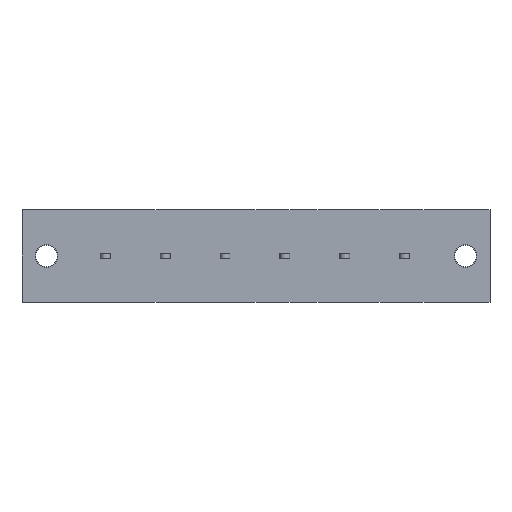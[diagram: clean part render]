
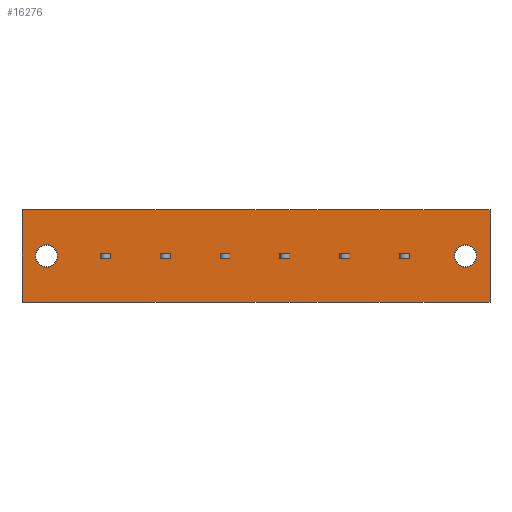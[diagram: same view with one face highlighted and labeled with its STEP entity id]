
A CAD part, front view. The second image highlights one B-rep face of the part: STEP entity #16276.
In plain terms, the highlighted planar face has unit normal (0, -1, 0).
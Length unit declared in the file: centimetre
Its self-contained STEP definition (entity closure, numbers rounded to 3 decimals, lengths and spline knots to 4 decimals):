
#977=VECTOR('',#17509,1.);
#1468=VECTOR('',#18308,1.);
#1637=VECTOR('',#18751,1.);
#1641=VECTOR('',#18756,1.);
#1652=VECTOR('',#18789,1.);
#1654=VECTOR('',#18792,1.);
#1772=VECTOR('',#19106,1.);
#1776=VECTOR('',#19111,1.);
#1787=VECTOR('',#19144,1.);
#1789=VECTOR('',#19147,1.);
#1907=VECTOR('',#19461,1.);
#1911=VECTOR('',#19466,1.);
#1922=VECTOR('',#19499,1.);
#1924=VECTOR('',#19502,1.);
#2042=VECTOR('',#19816,1.);
#2046=VECTOR('',#19821,1.);
#2057=VECTOR('',#19854,1.);
#2059=VECTOR('',#19857,1.);
#2177=VECTOR('',#20171,1.);
#2181=VECTOR('',#20176,1.);
#2192=VECTOR('',#20209,1.);
#2194=VECTOR('',#20212,1.);
#2261=VECTOR('',#20337,1.);
#2262=VECTOR('',#20338,1.);
#2263=VECTOR('',#20339,1.);
#2264=VECTOR('',#20340,1.);
#2265=VECTOR('',#20341,1.);
#2266=VECTOR('',#20342,1.);
#2724=LINE('',#21988,#977);
#3215=LINE('',#23827,#1468);
#3384=LINE('',#24382,#1637);
#3388=LINE('',#24391,#1641);
#3399=LINE('',#24426,#1652);
#3401=LINE('',#24430,#1654);
#3519=LINE('',#24831,#1772);
#3523=LINE('',#24840,#1776);
#3534=LINE('',#24875,#1787);
#3536=LINE('',#24879,#1789);
#3654=LINE('',#25280,#1907);
#3658=LINE('',#25289,#1911);
#3669=LINE('',#25324,#1922);
#3671=LINE('',#25328,#1924);
#3789=LINE('',#25729,#2042);
#3793=LINE('',#25738,#2046);
#3804=LINE('',#25773,#2057);
#3806=LINE('',#25777,#2059);
#3924=LINE('',#26178,#2177);
#3928=LINE('',#26187,#2181);
#3939=LINE('',#26222,#2192);
#3941=LINE('',#26226,#2194);
#4008=LINE('',#26388,#2261);
#4009=LINE('',#26391,#2262);
#4010=LINE('',#26393,#2263);
#4011=LINE('',#26395,#2264);
#4012=LINE('',#26396,#2265);
#4013=LINE('',#26397,#2266);
#4523=VERTEX_POINT('',#21989);
#4524=VERTEX_POINT('',#21990);
#4535=VERTEX_POINT('',#22014);
#4970=VERTEX_POINT('',#23828);
#4971=VERTEX_POINT('',#23829);
#4982=VERTEX_POINT('',#23853);
#5153=VERTEX_POINT('',#24383);
#5154=VERTEX_POINT('',#24384);
#5157=VERTEX_POINT('',#24392);
#5168=VERTEX_POINT('',#24427);
#5291=VERTEX_POINT('',#24832);
#5292=VERTEX_POINT('',#24833);
#5295=VERTEX_POINT('',#24841);
#5306=VERTEX_POINT('',#24876);
#5429=VERTEX_POINT('',#25281);
#5430=VERTEX_POINT('',#25282);
#5433=VERTEX_POINT('',#25290);
#5444=VERTEX_POINT('',#25325);
#5567=VERTEX_POINT('',#25730);
#5568=VERTEX_POINT('',#25731);
#5571=VERTEX_POINT('',#25739);
#5582=VERTEX_POINT('',#25774);
#5705=VERTEX_POINT('',#26179);
#5706=VERTEX_POINT('',#26180);
#5709=VERTEX_POINT('',#26188);
#5720=VERTEX_POINT('',#26223);
#5778=VERTEX_POINT('',#26389);
#5779=VERTEX_POINT('',#26390);
#5780=VERTEX_POINT('',#26392);
#5781=VERTEX_POINT('',#26394);
#5801=CIRCLE('',#26639,0.21);
#5844=CIRCLE('',#26876,0.21);
#6674=EDGE_CURVE('',#4523,#4524,#2724,.T.);
#6686=EDGE_CURVE('',#4535,#4535,#5801,.T.);
#7329=EDGE_CURVE('',#4970,#4971,#3215,.T.);
#7341=EDGE_CURVE('',#4982,#4982,#5844,.T.);
#7590=EDGE_CURVE('',#5153,#5154,#3384,.T.);
#7594=EDGE_CURVE('',#5157,#5153,#3388,.T.);
#7611=EDGE_CURVE('',#5168,#5157,#3399,.T.);
#7613=EDGE_CURVE('',#5154,#5168,#3401,.T.);
#7796=EDGE_CURVE('',#5291,#5292,#3519,.T.);
#7800=EDGE_CURVE('',#5295,#5291,#3523,.T.);
#7817=EDGE_CURVE('',#5306,#5295,#3534,.T.);
#7819=EDGE_CURVE('',#5292,#5306,#3536,.T.);
#8002=EDGE_CURVE('',#5429,#5430,#3654,.T.);
#8006=EDGE_CURVE('',#5433,#5429,#3658,.T.);
#8023=EDGE_CURVE('',#5444,#5433,#3669,.T.);
#8025=EDGE_CURVE('',#5430,#5444,#3671,.T.);
#8208=EDGE_CURVE('',#5567,#5568,#3789,.T.);
#8212=EDGE_CURVE('',#5571,#5567,#3793,.T.);
#8229=EDGE_CURVE('',#5582,#5571,#3804,.T.);
#8231=EDGE_CURVE('',#5568,#5582,#3806,.T.);
#8414=EDGE_CURVE('',#5705,#5706,#3924,.T.);
#8418=EDGE_CURVE('',#5709,#5705,#3928,.T.);
#8435=EDGE_CURVE('',#5720,#5709,#3939,.T.);
#8437=EDGE_CURVE('',#5706,#5720,#3941,.T.);
#8520=EDGE_CURVE('',#5778,#5779,#4008,.T.);
#8521=EDGE_CURVE('',#5780,#5778,#4009,.T.);
#8522=EDGE_CURVE('',#5781,#5780,#4010,.T.);
#8523=EDGE_CURVE('',#5779,#5781,#4011,.T.);
#8524=EDGE_CURVE('',#4971,#4523,#4012,.T.);
#8525=EDGE_CURVE('',#4524,#4970,#4013,.T.);
#13185=ORIENTED_EDGE('',*,*,#6686,.T.);
#13186=ORIENTED_EDGE('',*,*,#7341,.T.);
#13187=ORIENTED_EDGE('',*,*,#8520,.F.);
#13188=ORIENTED_EDGE('',*,*,#8521,.F.);
#13189=ORIENTED_EDGE('',*,*,#8522,.F.);
#13190=ORIENTED_EDGE('',*,*,#8523,.F.);
#13191=ORIENTED_EDGE('',*,*,#7594,.T.);
#13192=ORIENTED_EDGE('',*,*,#7590,.T.);
#13193=ORIENTED_EDGE('',*,*,#7613,.T.);
#13194=ORIENTED_EDGE('',*,*,#7611,.T.);
#13195=ORIENTED_EDGE('',*,*,#7800,.T.);
#13196=ORIENTED_EDGE('',*,*,#7796,.T.);
#13197=ORIENTED_EDGE('',*,*,#7819,.T.);
#13198=ORIENTED_EDGE('',*,*,#7817,.T.);
#13199=ORIENTED_EDGE('',*,*,#8006,.T.);
#13200=ORIENTED_EDGE('',*,*,#8002,.T.);
#13201=ORIENTED_EDGE('',*,*,#8025,.T.);
#13202=ORIENTED_EDGE('',*,*,#8023,.T.);
#13203=ORIENTED_EDGE('',*,*,#8212,.T.);
#13204=ORIENTED_EDGE('',*,*,#8208,.T.);
#13205=ORIENTED_EDGE('',*,*,#8231,.T.);
#13206=ORIENTED_EDGE('',*,*,#8229,.T.);
#13207=ORIENTED_EDGE('',*,*,#8418,.T.);
#13208=ORIENTED_EDGE('',*,*,#8414,.T.);
#13209=ORIENTED_EDGE('',*,*,#8437,.T.);
#13210=ORIENTED_EDGE('',*,*,#8435,.T.);
#13211=ORIENTED_EDGE('',*,*,#8524,.T.);
#13212=ORIENTED_EDGE('',*,*,#6674,.T.);
#13213=ORIENTED_EDGE('',*,*,#8525,.T.);
#13214=ORIENTED_EDGE('',*,*,#7329,.T.);
#14373=EDGE_LOOP('',(#13185));
#14374=EDGE_LOOP('',(#13186));
#14375=EDGE_LOOP('',(#13187,#13188,#13189,#13190));
#14376=EDGE_LOOP('',(#13191,#13192,#13193,#13194));
#14377=EDGE_LOOP('',(#13195,#13196,#13197,#13198));
#14378=EDGE_LOOP('',(#13199,#13200,#13201,#13202));
#14379=EDGE_LOOP('',(#13203,#13204,#13205,#13206));
#14380=EDGE_LOOP('',(#13207,#13208,#13209,#13210));
#14381=EDGE_LOOP('',(#13211,#13212,#13213,#13214));
#15373=FACE_BOUND('',#14373,.T.);
#15374=FACE_BOUND('',#14374,.T.);
#15375=FACE_BOUND('',#14375,.T.);
#15376=FACE_BOUND('',#14376,.T.);
#15377=FACE_BOUND('',#14377,.T.);
#15378=FACE_BOUND('',#14378,.T.);
#15379=FACE_BOUND('',#14379,.T.);
#15380=FACE_BOUND('',#14380,.T.);
#15381=FACE_BOUND('',#14381,.T.);
#16276=ADVANCED_FACE('',(#15373,#15374,#15375,#15376,#15377,#15378,#15379,
#15380,#15381),#16892,.T.);
#16892=PLANE('',#27630);
#17509=DIRECTION('',(0.,0.,1.));
#17527=DIRECTION('',(0.,1.,0.));
#17528=DIRECTION('',(0.21,0.,0.));
#18308=DIRECTION('',(0.,0.,-1.));
#18326=DIRECTION('',(0.,1.,0.));
#18327=DIRECTION('',(-0.21,0.,0.));
#18751=DIRECTION('',(0.,0.,1.));
#18756=DIRECTION('',(-1.,0.,0.));
#18789=DIRECTION('',(0.,0.,-1.));
#18792=DIRECTION('',(1.,0.,0.));
#19106=DIRECTION('',(0.,0.,1.));
#19111=DIRECTION('',(-1.,0.,0.));
#19144=DIRECTION('',(0.,0.,-1.));
#19147=DIRECTION('',(1.,0.,0.));
#19461=DIRECTION('',(0.,0.,1.));
#19466=DIRECTION('',(-1.,0.,0.));
#19499=DIRECTION('',(0.,0.,-1.));
#19502=DIRECTION('',(1.,0.,0.));
#19816=DIRECTION('',(0.,0.,1.));
#19821=DIRECTION('',(-1.,0.,0.));
#19854=DIRECTION('',(0.,0.,-1.));
#19857=DIRECTION('',(1.,0.,0.));
#20171=DIRECTION('',(0.,0.,1.));
#20176=DIRECTION('',(-1.,0.,0.));
#20209=DIRECTION('',(0.,0.,-1.));
#20212=DIRECTION('',(1.,0.,0.));
#20336=DIRECTION('',(0.,-1.,0.));
#20337=DIRECTION('',(1.,0.,0.));
#20338=DIRECTION('',(0.,0.,-1.));
#20339=DIRECTION('',(-1.,0.,0.));
#20340=DIRECTION('',(0.,0.,1.));
#20341=DIRECTION('',(1.,0.,0.));
#20342=DIRECTION('',(-1.,0.,0.));
#21988=CARTESIAN_POINT('',(6.6,0.,0.85));
#21989=CARTESIAN_POINT('',(6.6,0.,-0.85));
#21990=CARTESIAN_POINT('',(6.6,0.,0.85));
#22013=CARTESIAN_POINT('',(6.15,0.,0.));
#22014=CARTESIAN_POINT('',(5.94,0.,0.));
#23827=CARTESIAN_POINT('',(-2.,0.,-0.85));
#23828=CARTESIAN_POINT('',(-2.,0.,0.85));
#23829=CARTESIAN_POINT('',(-2.,0.,-0.85));
#23852=CARTESIAN_POINT('',(-1.55,0.,0.));
#23853=CARTESIAN_POINT('',(-1.34,0.,0.));
#24382=CARTESIAN_POINT('',(4.94,0.,-0.175));
#24383=CARTESIAN_POINT('',(4.94,0.,-0.05));
#24384=CARTESIAN_POINT('',(4.94,0.,0.05));
#24391=CARTESIAN_POINT('',(2.515,0.,-0.05));
#24392=CARTESIAN_POINT('',(5.12,0.,-0.05));
#24426=CARTESIAN_POINT('',(5.12,0.,-0.175));
#24427=CARTESIAN_POINT('',(5.12,0.,0.05));
#24430=CARTESIAN_POINT('',(2.515,0.,0.05));
#24831=CARTESIAN_POINT('',(3.84,0.,-0.175));
#24832=CARTESIAN_POINT('',(3.84,0.,-0.05));
#24833=CARTESIAN_POINT('',(3.84,0.,0.05));
#24840=CARTESIAN_POINT('',(1.965,0.,-0.05));
#24841=CARTESIAN_POINT('',(4.02,0.,-0.05));
#24875=CARTESIAN_POINT('',(4.02,0.,-0.175));
#24876=CARTESIAN_POINT('',(4.02,0.,0.05));
#24879=CARTESIAN_POINT('',(1.965,0.,0.05));
#25280=CARTESIAN_POINT('',(2.74,0.,-0.175));
#25281=CARTESIAN_POINT('',(2.74,0.,-0.05));
#25282=CARTESIAN_POINT('',(2.74,0.,0.05));
#25289=CARTESIAN_POINT('',(1.415,0.,-0.05));
#25290=CARTESIAN_POINT('',(2.92,0.,-0.05));
#25324=CARTESIAN_POINT('',(2.92,0.,-0.175));
#25325=CARTESIAN_POINT('',(2.92,0.,0.05));
#25328=CARTESIAN_POINT('',(1.415,0.,0.05));
#25729=CARTESIAN_POINT('',(1.64,0.,-0.175));
#25730=CARTESIAN_POINT('',(1.64,0.,-0.05));
#25731=CARTESIAN_POINT('',(1.64,0.,0.05));
#25738=CARTESIAN_POINT('',(0.865,0.,-0.05));
#25739=CARTESIAN_POINT('',(1.82,0.,-0.05));
#25773=CARTESIAN_POINT('',(1.82,0.,-0.175));
#25774=CARTESIAN_POINT('',(1.82,0.,0.05));
#25777=CARTESIAN_POINT('',(0.865,0.,0.05));
#26178=CARTESIAN_POINT('',(0.54,0.,-0.175));
#26179=CARTESIAN_POINT('',(0.54,0.,-0.05));
#26180=CARTESIAN_POINT('',(0.54,0.,0.05));
#26187=CARTESIAN_POINT('',(0.315,0.,-0.05));
#26188=CARTESIAN_POINT('',(0.72,0.,-0.05));
#26222=CARTESIAN_POINT('',(0.72,0.,-0.175));
#26223=CARTESIAN_POINT('',(0.72,0.,0.05));
#26226=CARTESIAN_POINT('',(0.315,0.,0.05));
#26387=CARTESIAN_POINT('',(0.,0.,0.));
#26388=CARTESIAN_POINT('',(-0.685,0.,-0.05));
#26389=CARTESIAN_POINT('',(-0.56,0.,-0.05));
#26390=CARTESIAN_POINT('',(-0.38,0.,-0.05));
#26391=CARTESIAN_POINT('',(-0.56,0.,-0.175));
#26392=CARTESIAN_POINT('',(-0.56,0.,0.05));
#26393=CARTESIAN_POINT('',(-0.685,0.,0.05));
#26394=CARTESIAN_POINT('',(-0.38,0.,0.05));
#26395=CARTESIAN_POINT('',(-0.38,0.,-0.175));
#26396=CARTESIAN_POINT('',(0.,0.,-0.85));
#26397=CARTESIAN_POINT('',(-1.1,0.,0.85));
#26639=AXIS2_PLACEMENT_3D('',#22013,#17527,#17528);
#26876=AXIS2_PLACEMENT_3D('',#23852,#18326,#18327);
#27630=AXIS2_PLACEMENT_3D('',#26387,#20336,$);
